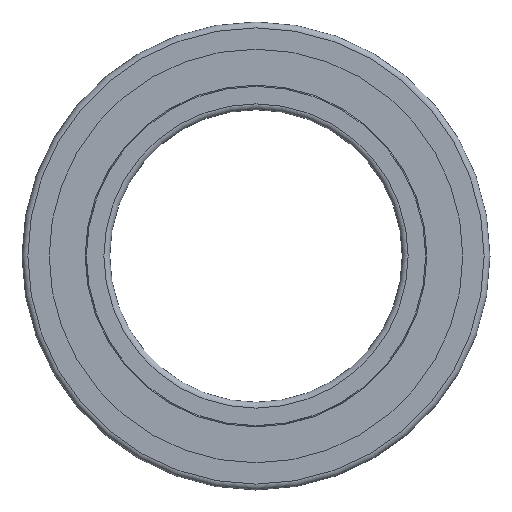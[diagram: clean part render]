
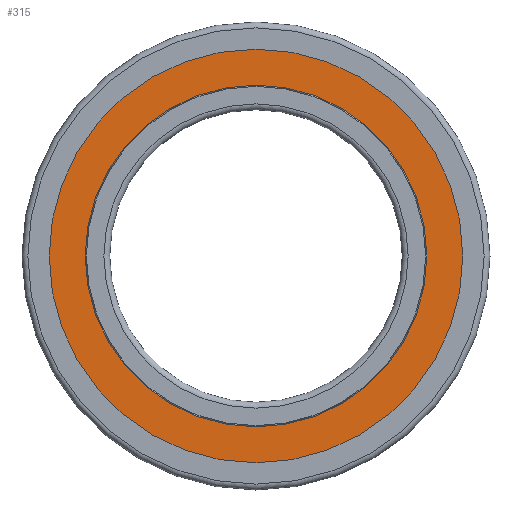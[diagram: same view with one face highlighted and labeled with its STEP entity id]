
A CAD part, left-side view. The second image highlights one B-rep face of the part: STEP entity #315.
In plain terms, the highlighted planar face has unit normal (-1, 0, 0).
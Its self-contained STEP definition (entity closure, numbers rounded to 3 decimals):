
#258=PLANE('',#1153);
#315=ADVANCED_FACE('',(#412,#413),#258,.F.);
#412=FACE_BOUND('',#601,.T.);
#413=FACE_BOUND('',#602,.T.);
#601=EDGE_LOOP('',(#765));
#602=EDGE_LOOP('',(#766));
#765=ORIENTED_EDGE('',*,*,#1028,.F.);
#766=ORIENTED_EDGE('',*,*,#1026,.T.);
#919=VERTEX_POINT('',#1503);
#921=VERTEX_POINT('',#1508);
#1026=EDGE_CURVE('',#919,#919,#1108,.T.);
#1028=EDGE_CURVE('',#921,#921,#1110,.T.);
#1108=CIRCLE('',#1149,35.35);
#1110=CIRCLE('',#1152,29.2);
#1149=AXIS2_PLACEMENT_3D('',#1502,#1281,#1282);
#1152=AXIS2_PLACEMENT_3D('',#1507,#1287,#1288);
#1153=AXIS2_PLACEMENT_3D('',#1509,#1289,#1290);
#1281=DIRECTION('',(-1.,0.,0.));
#1282=DIRECTION('',(0.,0.,1.));
#1287=DIRECTION('',(-1.,0.,0.));
#1288=DIRECTION('',(0.,0.,1.));
#1289=DIRECTION('',(1.,0.,0.));
#1290=DIRECTION('',(0.,0.,-1.));
#1502=CARTESIAN_POINT('',(0.1,0.,0.));
#1503=CARTESIAN_POINT('',(0.1,0.,35.35));
#1507=CARTESIAN_POINT('',(0.1,0.,0.));
#1508=CARTESIAN_POINT('',(0.1,0.,29.2));
#1509=CARTESIAN_POINT('',(0.1,0.,35.35));
